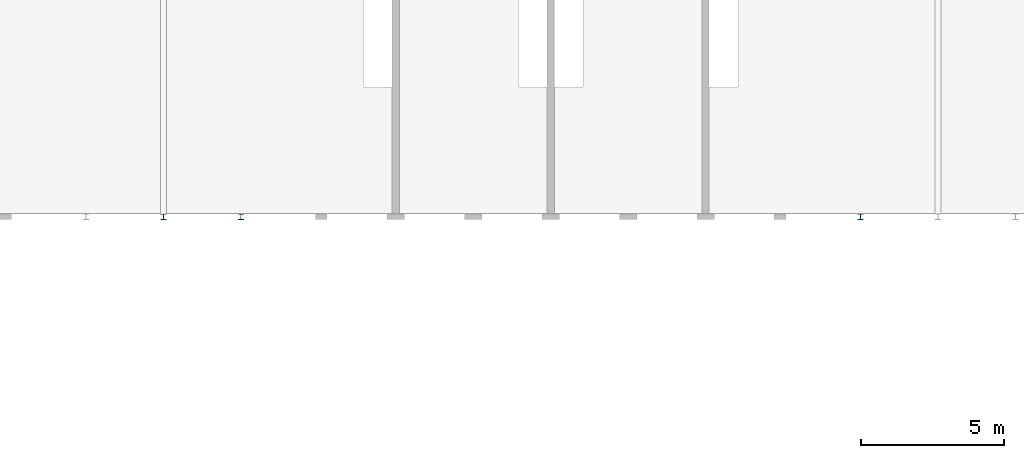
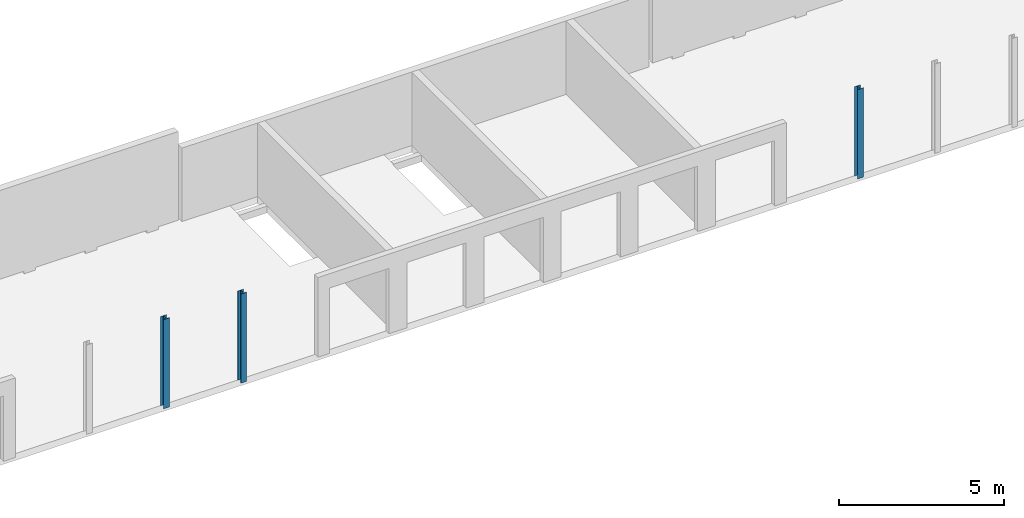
# One storey, part 2 of 22: 3 columns.
"""IFC2X3 building model written with IfcOpenShell, lengths in millimetres."""

from ifc_helpers import new_model, entity, si_unit, converted_unit, derived_unit, direction, frame, frame_2d, origin, place, context, subcontext, project, spatial, polyline, circle_curve, parameter, trimmed, segment, composite_curve, outline, extrude, source, transform, mapped, material, type_object, type_shapes, element, save


model = new_model("IFC2X3")

# Units and contexts
model_context = context("Model", 3, precision=0.01, world=origin(), true_north=direction((6.12303176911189e-17, 1.0)))
body_context = subcontext(model_context, "Body", "Model", "MODEL_VIEW")
ifc_project = project(units=[si_unit("LENGTHUNIT", "METRE", prefix="MILLI"), si_unit("AREAUNIT", "SQUARE_METRE"), si_unit("VOLUMEUNIT", "CUBIC_METRE"), converted_unit("PLANEANGLEUNIT", "DEGREE", entity("IfcRatioMeasure", 0.0174532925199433), si_unit("PLANEANGLEUNIT", "RADIAN"), dimensions=[0, 0, 0, 0, 0, 0, 0]), si_unit("MASSUNIT", "GRAM", prefix="KILO"), derived_unit("MASSDENSITYUNIT", [(si_unit("MASSUNIT", "GRAM", prefix="KILO"), 1), (si_unit("LENGTHUNIT", "METRE"), -3)]), si_unit("TIMEUNIT", "SECOND"), si_unit("FREQUENCYUNIT", "HERTZ"), si_unit("THERMODYNAMICTEMPERATUREUNIT", "DEGREE_CELSIUS"), derived_unit("THERMALTRANSMITTANCEUNIT", [(si_unit("MASSUNIT", "GRAM", prefix="KILO"), 1), (si_unit("THERMODYNAMICTEMPERATUREUNIT", "KELVIN"), -1), (si_unit("TIMEUNIT", "SECOND"), -3)]), derived_unit("VOLUMETRICFLOWRATEUNIT", [(si_unit("LENGTHUNIT", "METRE"), 3), (si_unit("TIMEUNIT", "SECOND"), -1)]), si_unit("ELECTRICCURRENTUNIT", "AMPERE"), si_unit("ELECTRICVOLTAGEUNIT", "VOLT"), si_unit("POWERUNIT", "WATT"), si_unit("FORCEUNIT", "NEWTON", prefix="KILO"), si_unit("ILLUMINANCEUNIT", "LUX"), si_unit("LUMINOUSFLUXUNIT", "LUMEN"), si_unit("LUMINOUSINTENSITYUNIT", "CANDELA"), derived_unit("USERDEFINED", [(si_unit("MASSUNIT", "GRAM", prefix="KILO"), -1), (si_unit("LENGTHUNIT", "METRE"), -2), (si_unit("TIMEUNIT", "SECOND"), 3), (si_unit("LUMINOUSFLUXUNIT", "LUMEN"), 1)]), derived_unit("LINEARVELOCITYUNIT", [(si_unit("LENGTHUNIT", "METRE"), 1), (si_unit("TIMEUNIT", "SECOND"), -1)]), si_unit("PRESSUREUNIT", "PASCAL"), derived_unit("USERDEFINED", [(si_unit("LENGTHUNIT", "METRE"), -2), (si_unit("MASSUNIT", "GRAM", prefix="KILO"), 1), (si_unit("TIMEUNIT", "SECOND"), -2)])], contexts=[model_context])

# Site, building, storey
site_placement = place(None, origin())
site = spatial("IfcSite", under=ifc_project, at=site_placement, Name="Default", CompositionType="ELEMENT")
building_placement = place(site_placement, origin())
building = spatial("IfcBuilding", under=site, at=building_placement, Name="niet gebruiken", CompositionType="ELEMENT")
storey_placement = place(building_placement, frame((0.0, 0.0, 9630.0)))
storey = spatial("IfcBuildingStorey", under=building, at=storey_placement, Name="03 derde verdieping", CompositionType="ELEMENT", Elevation=9630.00000000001)

# Columns
ifc_material = material(Name="NLRS_h2_staal")
column_type = type_object("IfcColumnType", Name="kolom HEA 200", PredefinedType="COLUMN", material=ifc_material)
shared_shape = source(origin(), body_context, "Body", "SweptSolid", [
    extrude(outline(composite_curve([segment(polyline([(85.0, -100.0), (95.0, -100.0)]), True, "CONTINUOUS"), segment(polyline([(95.0, -100.0), (95.0, 100.0)]), True, "CONTINUOUS"), segment(polyline([(95.0, 100.0), (85.0, 100.0)]), True, "CONTINUOUS"), segment(polyline([(85.0, 100.0), (85.0, 21.2499999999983)]), True, "CONTINUOUS"), segment(trimmed(circle_curve(frame_2d((67.0, 21.2499999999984), x_axis=(1.0, 0.0)), 18.0), [parameter(270.0)], [parameter(0.0)], True, "PARAMETER"), False, "CONTINUOUS"), segment(polyline([(67.0, 3.24999999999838), (-67.0, 3.24999999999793)]), True, "CONTINUOUS"), segment(trimmed(circle_curve(frame_2d((-67.0, 21.2499999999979), x_axis=(0.0, -1.0)), 18.0), [parameter(270.0)], [parameter(0.0)], True, "PARAMETER"), False, "CONTINUOUS"), segment(polyline([(-85.0, 21.2499999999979), (-85.0, 100.0)]), True, "CONTINUOUS"), segment(polyline([(-85.0, 100.0), (-95.0, 100.0)]), True, "CONTINUOUS"), segment(polyline([(-95.0, 100.0), (-95.0, -100.0)]), True, "CONTINUOUS"), segment(polyline([(-95.0, -100.0), (-85.0, -100.0)]), True, "CONTINUOUS"), segment(polyline([(-85.0, -100.0), (-85.0, -21.250000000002)]), True, "CONTINUOUS"), segment(trimmed(circle_curve(frame_2d((-67.0, -21.2500000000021), x_axis=(-1.0, 0.0)), 18.0), [parameter(270.0)], [parameter(0.0)], True, "PARAMETER"), False, "CONTINUOUS"), segment(polyline([(-67.0, -3.25000000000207), (67.0, -3.25000000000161)]), True, "CONTINUOUS"), segment(trimmed(circle_curve(frame_2d((67.0, -21.2500000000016), x_axis=(0.0, 1.0)), 18.0), [parameter(270.0)], [parameter(0.0)], True, "PARAMETER"), False, "CONTINUOUS"), segment(polyline([(85.0, -21.2500000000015), (85.0, -100.0)]), True, "CONTINUOUS")], self_intersect=False)), frame((0.0, 0.0, 9540.0), z_axis=(0.0, 0.0, 1.0), x_axis=(0.0, -1.0, 0.0)), (0.0, 0.0, 1.0), 3300.0),
])
type_shapes(column_type, [shared_shape])
for number, where, name in (
    (1, (27000.0, 300.0, -9630.0), "NLRS_28.11_SCO_TLB_stalen kolom HEA_gen:kolom HEA 200"),
    (2, (29700.0, 300.0, -9630.0), "NLRS_28.11_SCO_TLB_stalen kolom HEA_gen:kolom HEA 200"),
    (3, (51300.0, 300.0, -9630.0), "NLRS_28.11_SCO_TLB_stalen kolom HEA_gen:kolom HEA 200"),
):
    element("IfcColumn", number, at=place(storey_placement, frame(where)), inside=storey, type_object=column_type, material=ifc_material, Name=name, ObjectType="kolom HEA 200", context=body_context, shape_type="MappedRepresentation", body=[
        mapped(shared_shape, transform((0.0, 0.0, 0.0), scale=1.0)),
    ])

save(model, "model.ifc")
